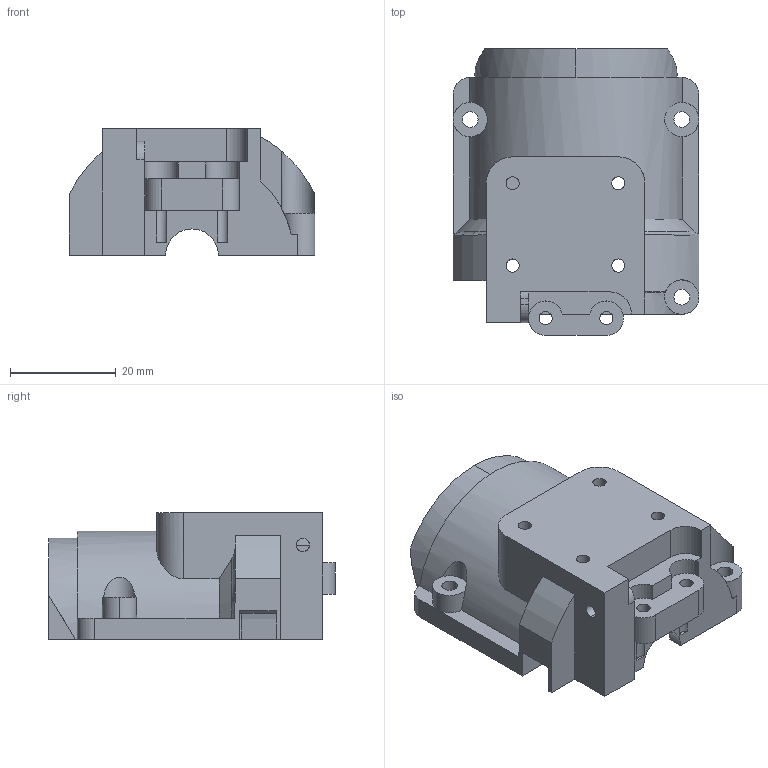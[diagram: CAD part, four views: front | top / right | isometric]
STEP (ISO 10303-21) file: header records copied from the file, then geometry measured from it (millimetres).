
FILE_DESCRIPTION (( 'STEP AP214' ), '1' );
FILE_NAME ('Êðûøêà ìåæîñåâîãî Äèôôåðåíöèàëà.STEP', '2019-03-26T15:16:22', ( '' ), ( '' ), 'SwSTEP 2.0', 'SolidWorks 2018', '' );
FILE_SCHEMA (( 'AUTOMOTIVE_DESIGN' ));
Length unit declared in the file: millimetre
Products named in the file (1): Êðûøêà ìåæîñåâîãî Äèôôåðåíöèàëà
Bounding box: 46.6 x 54.31 x 24 mm (x, y, z)
Volume: 18537.7 mm3; surface area: 11286.4 mm2
Topology: 1 solids, 1 shells, 129 faces, 369 edges, 242 vertices
Faces by surface type: cylinder 62, plane 62, torus 3, cone 2
Entity records: 4621 total; most frequent: CARTESIAN_POINT 1135, ORIENTED_EDGE 738, DIRECTION 719, EDGE_CURVE 369, AXIS2_PLACEMENT_3D 258, VERTEX_POINT 242, VECTOR 203, LINE 203
